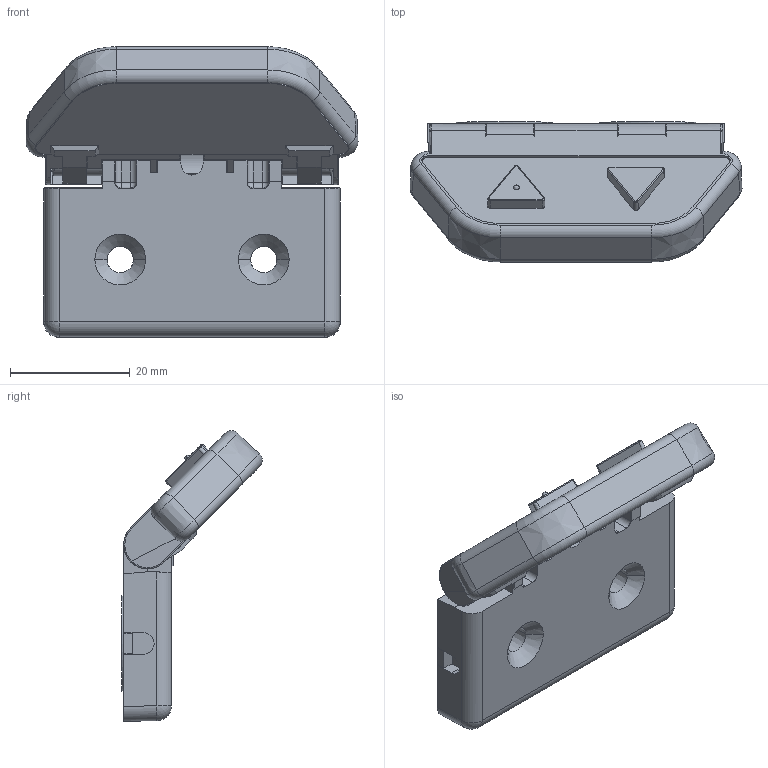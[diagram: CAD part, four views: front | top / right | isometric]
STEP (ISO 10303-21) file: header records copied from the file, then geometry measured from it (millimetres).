
FILE_DESCRIPTION((''),'2;1');
FILE_NAME('DPA','2006-02-09T',('KH'),(''),'PRO/ENGINEER BY PARAMETRIC TECHNOLOGY CORPORATION, 2005110','PRO/ENGINEER BY PARAMETRIC TECHNOLOGY CORPORATION, 2005110','');
FILE_SCHEMA(('CONFIG_CONTROL_DESIGN'));
Length unit declared in the file: millimetre
Products named in the file (1): DPA
Bounding box: 55.51 x 23.46 x 48.59 mm (x, y, z)
Volume: 18582.2 mm3; surface area: 9689.1 mm2
Topology: 2 solids, 2 shells, 394 faces, 1008 edges, 624 vertices
Faces by surface type: plane 212, cylinder 100, cone 31, torus 29, bspline 10, sphere 8, extrusion 4
Entity records: 16059 total; most frequent: CARTESIAN_POINT 3398, ORIENTED_EDGE 2016, DIRECTION 1818, PRESENTATION_STYLE_ASSIGNMENT 1041, STYLED_ITEM 1010, CURVE_STYLE 1008, EDGE_CURVE 1008, VECTOR 664
